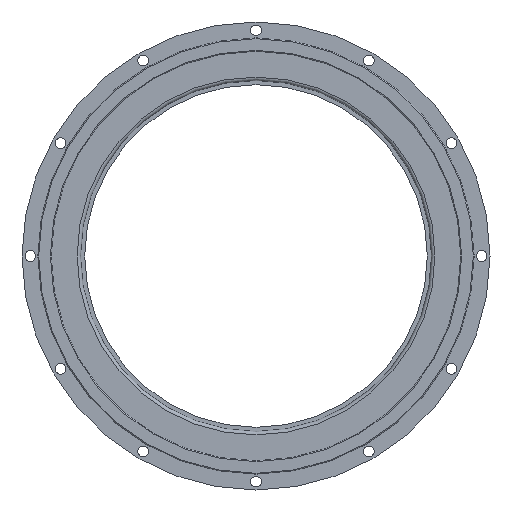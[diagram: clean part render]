
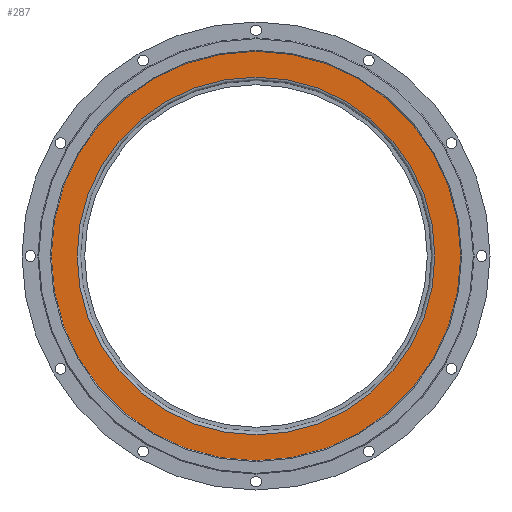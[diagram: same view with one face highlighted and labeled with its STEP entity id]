
A CAD part, left-side view. The second image highlights one B-rep face of the part: STEP entity #287.
In plain terms, the highlighted planar face has unit normal (-1, 0, 0).
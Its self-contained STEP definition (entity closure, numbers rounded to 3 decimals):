
#287=ADVANCED_FACE('',(#632,#634),#636,.T.);
#632=FACE_BOUND('',#633,.T.);
#633=EDGE_LOOP('',(#771));
#634=FACE_BOUND('',#635,.T.);
#635=EDGE_LOOP('',(#772));
#636=PLANE('',#637);
#637=AXIS2_PLACEMENT_3D('',#638,#639,#640);
#638=CARTESIAN_POINT('',(-40.,0.,0.));
#639=DIRECTION('',(-1.,0.,0.));
#640=DIRECTION('',(0.,0.,1.));
#771=ORIENTED_EDGE('',*,*,#822,.T.);
#772=ORIENTED_EDGE('',*,*,#824,.F.);
#822=EDGE_CURVE('',#904,#904,#905,.T.);
#824=EDGE_CURVE('',#908,#908,#909,.T.);
#904=VERTEX_POINT('',#1105);
#905=CIRCLE('',#1106,122.5);
#908=VERTEX_POINT('',#1115);
#909=CIRCLE('',#1116,107.);
#1105=CARTESIAN_POINT('',(-40.,0.,122.5));
#1106=AXIS2_PLACEMENT_3D('',#1107,#1108,#1109);
#1107=CARTESIAN_POINT('',(-40.,0.,0.));
#1108=DIRECTION('',(-1.,0.,0.));
#1109=DIRECTION('',(0.,0.,1.));
#1115=CARTESIAN_POINT('',(-40.,0.,107.));
#1116=AXIS2_PLACEMENT_3D('',#1117,#1118,#1119);
#1117=CARTESIAN_POINT('',(-40.,0.,0.));
#1118=DIRECTION('',(-1.,0.,0.));
#1119=DIRECTION('',(0.,0.,1.));
